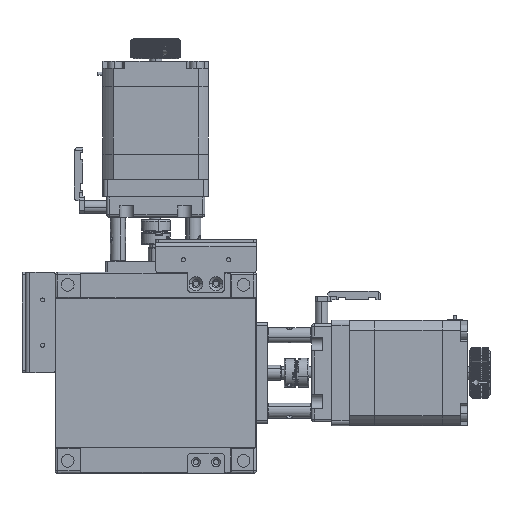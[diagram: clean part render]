
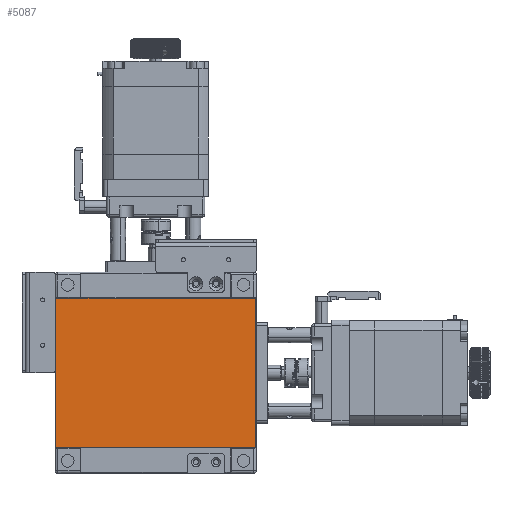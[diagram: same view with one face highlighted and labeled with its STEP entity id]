
A CAD part, front view. The second image highlights one B-rep face of the part: STEP entity #5087.
In plain terms, the highlighted planar face has unit normal (0, -1, 0).
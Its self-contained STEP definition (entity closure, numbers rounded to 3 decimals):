
#3056 = EDGE_CURVE ( 'NONE', #23264, #88738, #3218, .T. ) ;
#3218 = LINE ( 'NONE', #35153, #101903 ) ;
#5087 = ADVANCED_FACE ( 'NONE', ( #50829 ), #82776, .F. ) ;
#6136 = VERTEX_POINT ( 'NONE', #6873 ) ;
#6873 = CARTESIAN_POINT ( 'NONE',  ( -39.714, 0.3, 29.7 ) ) ;
#7360 = LINE ( 'NONE', #71122, #100674 ) ;
#12197 = CARTESIAN_POINT ( 'NONE',  ( 40., 0.3, -29.7 ) ) ;
#17865 = EDGE_CURVE ( 'NONE', #6136, #61629, #69381, .T. ) ;
#20685 = EDGE_CURVE ( 'NONE', #23264, #61629, #90641, .T. ) ;
#21129 = ORIENTED_EDGE ( 'NONE', *, *, #75219, .T. ) ;
#23264 = VERTEX_POINT ( 'NONE', #49282 ) ;
#28684 = VECTOR ( 'NONE', #60415, 1000. ) ;
#35153 = CARTESIAN_POINT ( 'NONE',  ( 39.714, 0.3, -29.7 ) ) ;
#35672 = ORIENTED_EDGE ( 'NONE', *, *, #3056, .T. ) ;
#39168 = DIRECTION ( 'NONE',  ( 0., 1., 0. ) ) ;
#44944 = ORIENTED_EDGE ( 'NONE', *, *, #17865, .T. ) ;
#45335 = DIRECTION ( 'NONE',  ( 0., 0., -1. ) ) ;
#46476 = CARTESIAN_POINT ( 'NONE',  ( 40., 0.3, 29.7 ) ) ;
#49282 = CARTESIAN_POINT ( 'NONE',  ( 39.714, 0.3, -29.7 ) ) ;
#50829 = FACE_OUTER_BOUND ( 'NONE', #80166, .T. ) ;
#52656 = CARTESIAN_POINT ( 'NONE',  ( -39.714, 0.3, 29.7 ) ) ;
#60415 = DIRECTION ( 'NONE',  ( -1., 0., 0. ) ) ;
#61629 = VERTEX_POINT ( 'NONE', #101600 ) ;
#67474 = ORIENTED_EDGE ( 'NONE', *, *, #20685, .F. ) ;
#69381 = LINE ( 'NONE', #52656, #88965 ) ;
#70017 = DIRECTION ( 'NONE',  ( 1., 0., 0. ) ) ;
#70107 = DIRECTION ( 'NONE',  ( -1., 0., 0. ) ) ;
#71122 = CARTESIAN_POINT ( 'NONE',  ( 40., 0.3, 29.7 ) ) ;
#75219 = EDGE_CURVE ( 'NONE', #88738, #6136, #7360, .T. ) ;
#80166 = EDGE_LOOP ( 'NONE', ( #35672, #21129, #44944, #67474 ) ) ;
#81027 = AXIS2_PLACEMENT_3D ( 'NONE', #46476, #39168, #70017 ) ;
#82776 = PLANE ( 'NONE',  #81027 ) ;
#87226 = CARTESIAN_POINT ( 'NONE',  ( 39.714, 0.3, 29.7 ) ) ;
#88738 = VERTEX_POINT ( 'NONE', #87226 ) ;
#88965 = VECTOR ( 'NONE', #45335, 1000. ) ;
#90641 = LINE ( 'NONE', #12197, #28684 ) ;
#91026 = DIRECTION ( 'NONE',  ( 0., 0., 1. ) ) ;
#100674 = VECTOR ( 'NONE', #70107, 1000. ) ;
#101600 = CARTESIAN_POINT ( 'NONE',  ( -39.714, 0.3, -29.7 ) ) ;
#101903 = VECTOR ( 'NONE', #91026, 1000. ) ;
